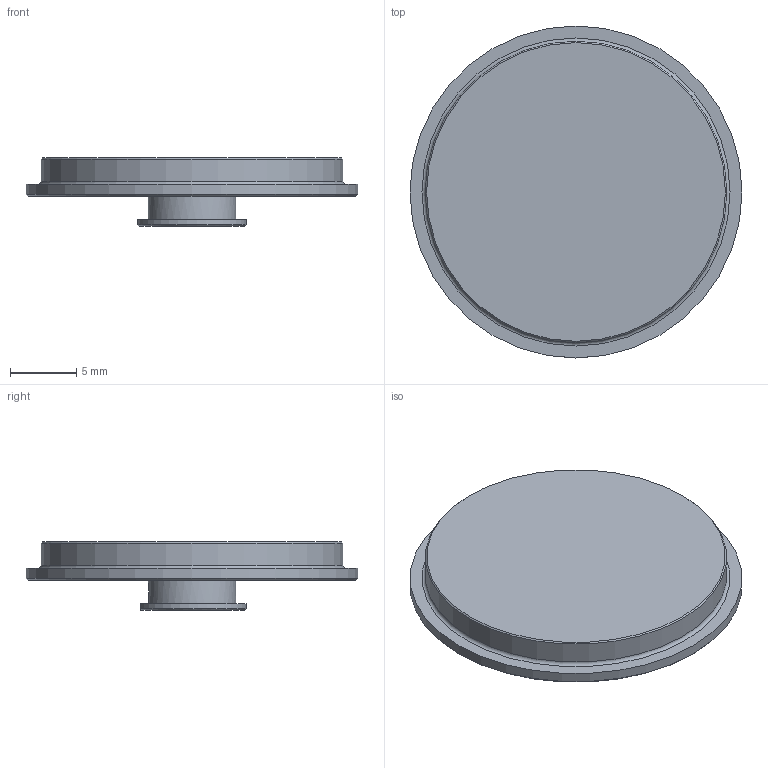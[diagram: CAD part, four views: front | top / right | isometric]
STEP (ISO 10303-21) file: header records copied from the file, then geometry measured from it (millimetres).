
FILE_DESCRIPTION(/* description */ (''),/* implementation_level */ '2;1');
FILE_NAME(/* name */ 'LA-2237-0170#-D.stp',/* time_stamp */ '2012-09-07T08:24:45+01:00',/* author */ (''),/* organization */ (''),/* preprocessor_version */ 'ST-DEVELOPER v11',/* originating_system */ 'SIEMENS PLM Software NX 7.5',/* authorisation */ '');
FILE_SCHEMA (('AUTOMOTIVE_DESIGN { 1 0 10303 214 1 1 1 1 }'));
Length unit declared in the file: millimetre
Products named in the file (1): rt13371Ayus3
Bounding box: 25 x 25 x 5.15 mm (x, y, z)
Volume: 1167.1 mm3; surface area: 1310.4 mm2
Topology: 1 solids, 1 shells, 37 faces, 132 edges, 109 vertices
Faces by surface type: plane 16, cylinder 11, cone 8, torus 2
Full cylindrical faces by diameter (mm): 2.46 x1, 3.2 x1, 5.5 x1, 5.7 x1, 6.6 x1, 22.7 x1, 25 x1
Entity records: 1722 total; most frequent: CARTESIAN_POINT 381, ORIENTED_EDGE 222, DIRECTION 186, EDGE_CURVE 111, VERTEX_POINT 104, AXIS2_PLACEMENT_3D 73, EDGE_LOOP 65, FACE_BOUND 50
